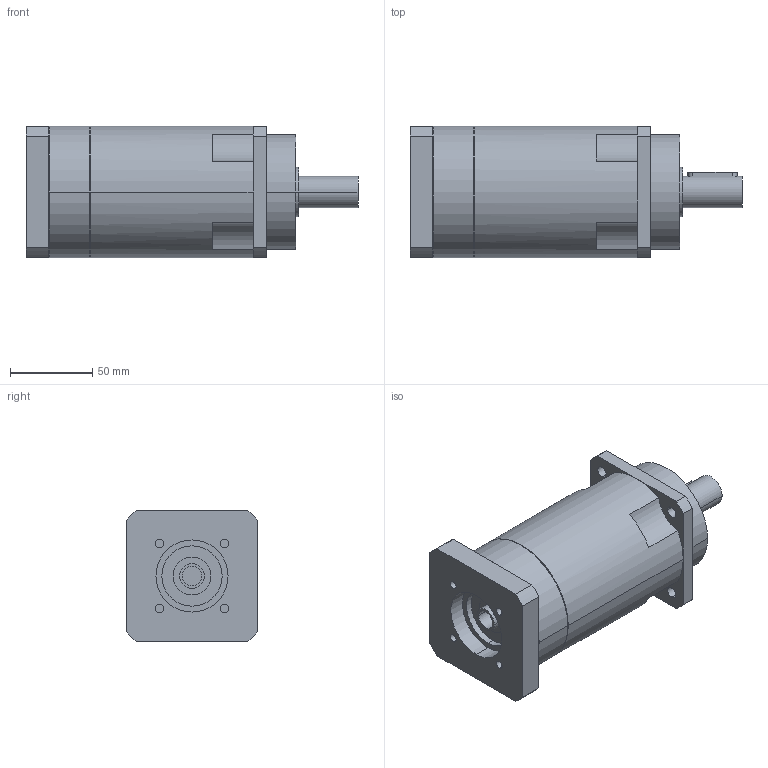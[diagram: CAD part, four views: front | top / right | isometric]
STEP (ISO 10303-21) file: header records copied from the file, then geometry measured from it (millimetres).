
FILE_DESCRIPTION(('CoCreate Modeling STEP Export'),'2;1');
FILE_NAME('GPR100_ig-48-64-80-100-120-144-180-216_19_B5_12_P31.stp','2014-08-26T11:53:45',(''),(''),'CoCreate Modeling STEP processor for AP214 (Solid Model)','CoCreate Modeling 16.00C 25-Feb-2009 (C) Parametric Technology GmbH','');
FILE_SCHEMA(('AUTOMOTIVE_DESIGN { 1 0 10303 214 1 1 1 1 }'));
Length unit declared in the file: millimetre
Products named in the file (2): GPR100_ig-48-64-80-100-120-144-180-216_19_B5_12_P31
Assembly tree (1 placements, depth 2):
  GPR100_ig-48-64-80-100-120-144-180-216_19_B5_12_P31
    GPR100_ig-48-64-80-100-120-144-180-216_19_B5_12_P31
Bounding box: 202.4 x 80 x 80 mm (x, y, z)
Volume: 814004.7 mm3; surface area: 65156.2 mm2
Topology: 1 solids, 1 shells, 93 faces, 244 edges, 166 vertices
Faces by surface type: cylinder 52, plane 35, cone 6
Entity records: 2601 total; most frequent: ORIENTED_EDGE 484, CARTESIAN_POINT 471, DIRECTION 386, EDGE_CURVE 242, VERTEX_POINT 166, AXIS2_PLACEMENT_3D 145, EDGE_LOOP 116, VECTOR 96
